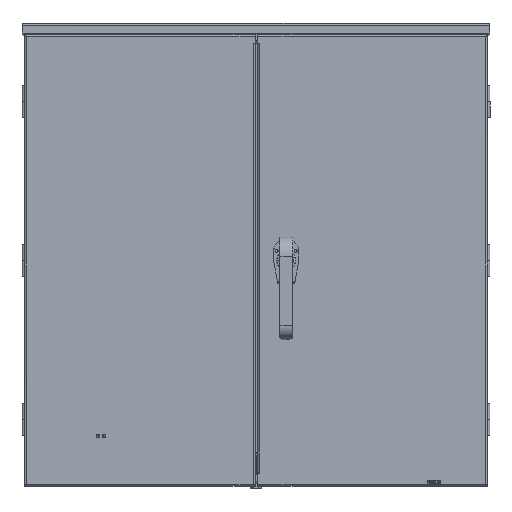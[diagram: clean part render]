
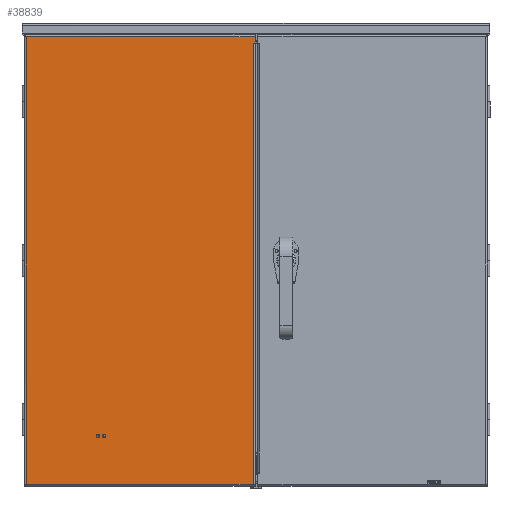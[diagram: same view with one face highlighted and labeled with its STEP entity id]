
A CAD part, top view. The second image highlights one B-rep face of the part: STEP entity #38839.
In plain terms, the highlighted planar face has unit normal (0, 0, 1).
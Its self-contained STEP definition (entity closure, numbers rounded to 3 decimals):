
#13 = VERTEX_POINT ( 'NONE', #20820 ) ;
#14 = EDGE_CURVE ( 'NONE', #15, #13, #20815, .T. ) ;
#15 = VERTEX_POINT ( 'NONE', #20808 ) ;
#16 = EDGE_CURVE ( 'NONE', #21, #53157, #20802, .T. ) ;
#20 = VERTEX_POINT ( 'NONE', #20928 ) ;
#21 = VERTEX_POINT ( 'NONE', #20927 ) ;
#25 = EDGE_CURVE ( 'NONE', #21, #20, #20903, .T. ) ;
#16979 = DIRECTION ( 'NONE',  ( 1., 0., 0. ) ) ;
#16981 = DIRECTION ( 'NONE',  ( 0., 0., 1. ) ) ;
#16982 = CARTESIAN_POINT ( 'NONE',  ( -9.037, -17.675, 1. ) ) ;
#16984 = AXIS2_PLACEMENT_3D ( 'NONE', #16982, #16981, #16979 ) ;
#16985 = PLANE ( 'NONE',  #16984 ) ;
#16989 = FACE_OUTER_BOUND ( 'NONE', #38790, .T. ) ;
#16991 = FACE_BOUND ( 'NONE', #38812, .T. ) ;
#16993 = FACE_BOUND ( 'NONE', #38836, .T. ) ;
#16995 = DIRECTION ( 'NONE',  ( 1., 0., 0. ) ) ;
#16997 = DIRECTION ( 'NONE',  ( 0., 0., 1. ) ) ;
#16998 = CARTESIAN_POINT ( 'NONE',  ( -3.279, -13.754, 1. ) ) ;
#17000 = AXIS2_PLACEMENT_3D ( 'NONE', #16998, #16997, #16995 ) ;
#17001 = CIRCLE ( 'NONE', #17000, 0.134 ) ;
#17006 = DIRECTION ( 'NONE',  ( 1., 0., 0. ) ) ;
#17008 = DIRECTION ( 'NONE',  ( 0., 0., 1. ) ) ;
#17010 = CARTESIAN_POINT ( 'NONE',  ( -2.779, -13.754, 1. ) ) ;
#17011 = AXIS2_PLACEMENT_3D ( 'NONE', #17010, #17008, #17006 ) ;
#17013 = CIRCLE ( 'NONE', #17011, 0.134 ) ;
#18098 = CARTESIAN_POINT ( 'NONE',  ( -3.413, -13.754, 1. ) ) ;
#18102 = CARTESIAN_POINT ( 'NONE',  ( -3.145, -13.754, 1. ) ) ;
#18181 = DIRECTION ( 'NONE',  ( 1., 0., 0. ) ) ;
#18183 = DIRECTION ( 'NONE',  ( 0., 0., 1. ) ) ;
#18185 = CARTESIAN_POINT ( 'NONE',  ( -3.279, -13.754, 1. ) ) ;
#18187 = AXIS2_PLACEMENT_3D ( 'NONE', #18185, #18183, #18181 ) ;
#18188 = CIRCLE ( 'NONE', #18187, 0.134 ) ;
#18408 = CARTESIAN_POINT ( 'NONE',  ( 8.9, -17.525, 1. ) ) ;
#18882 = DIRECTION ( 'NONE',  ( 0., -1., 0. ) ) ;
#18883 = VECTOR ( 'NONE', #18882, 39.37 ) ;
#18885 = CARTESIAN_POINT ( 'NONE',  ( 9.037, 17.675, 1. ) ) ;
#18886 = LINE ( 'NONE', #18885, #18883 ) ;
#18891 = CARTESIAN_POINT ( 'NONE',  ( 9.037, 17.537, 1. ) ) ;
#19001 = CARTESIAN_POINT ( 'NONE',  ( -2.645, -13.754, 1. ) ) ;
#19033 = CARTESIAN_POINT ( 'NONE',  ( -2.913, -13.754, 1. ) ) ;
#19046 = DIRECTION ( 'NONE',  ( 1., 0., 0. ) ) ;
#19048 = DIRECTION ( 'NONE',  ( 0., 0., 1. ) ) ;
#19050 = AXIS2_PLACEMENT_3D ( 'NONE', #19066, #19048, #19046 ) ;
#19051 = CIRCLE ( 'NONE', #19050, 0.134 ) ;
#19066 = CARTESIAN_POINT ( 'NONE',  ( -2.779, -13.754, 1. ) ) ;
#19194 = DIRECTION ( 'NONE',  ( -1., 0., 0. ) ) ;
#19196 = VECTOR ( 'NONE', #19194, 39.37 ) ;
#19198 = CARTESIAN_POINT ( 'NONE',  ( -8.906, 17.537, 1. ) ) ;
#19199 = LINE ( 'NONE', #19198, #19196 ) ;
#19207 = CARTESIAN_POINT ( 'NONE',  ( -8.9, 17.537, 1. ) ) ;
#19287 = DIRECTION ( 'NONE',  ( 0., 1., 0. ) ) ;
#19289 = VECTOR ( 'NONE', #19287, 39.37 ) ;
#19291 = CARTESIAN_POINT ( 'NONE',  ( 8.9, -17.525, 1. ) ) ;
#19292 = LINE ( 'NONE', #19291, #19289 ) ;
#19415 = DIRECTION ( 'NONE',  ( 1., 0., 0. ) ) ;
#19417 = VECTOR ( 'NONE', #19415, 39.37 ) ;
#19418 = CARTESIAN_POINT ( 'NONE',  ( 9.037, -17.537, 1. ) ) ;
#19419 = LINE ( 'NONE', #19418, #19417 ) ;
#19425 = CARTESIAN_POINT ( 'NONE',  ( -8.9, -17.537, 1. ) ) ;
#19427 = DIRECTION ( 'NONE',  ( 0., -1., 0. ) ) ;
#19429 = VECTOR ( 'NONE', #19427, 39.37 ) ;
#19431 = CARTESIAN_POINT ( 'NONE',  ( -8.9, -17.543, 1. ) ) ;
#19434 = LINE ( 'NONE', #19431, #19429 ) ;
#20799 = VECTOR ( 'NONE', #20935, 39.37 ) ;
#20801 = CARTESIAN_POINT ( 'NONE',  ( -9.037, -17.525, 1. ) ) ;
#20802 = LINE ( 'NONE', #20801, #20799 ) ;
#20808 = CARTESIAN_POINT ( 'NONE',  ( 8.9, 17.04, 1. ) ) ;
#20810 = DIRECTION ( 'NONE',  ( 1., 0., 0. ) ) ;
#20812 = VECTOR ( 'NONE', #20810, 39.37 ) ;
#20814 = CARTESIAN_POINT ( 'NONE',  ( -9.037, 17.04, 1. ) ) ;
#20815 = LINE ( 'NONE', #20814, #20812 ) ;
#20820 = CARTESIAN_POINT ( 'NONE',  ( 9.037, 17.04, 1. ) ) ;
#20897 = DIRECTION ( 'NONE',  ( 0., -1., 0. ) ) ;
#20899 = VECTOR ( 'NONE', #20897, 39.37 ) ;
#20901 = CARTESIAN_POINT ( 'NONE',  ( 9.037, 17.675, 1. ) ) ;
#20903 = LINE ( 'NONE', #20901, #20899 ) ;
#20927 = CARTESIAN_POINT ( 'NONE',  ( 9.037, -17.525, 1. ) ) ;
#20928 = CARTESIAN_POINT ( 'NONE',  ( 9.037, -17.537, 1. ) ) ;
#20935 = DIRECTION ( 'NONE',  ( -1., 0., 0. ) ) ;
#38781 = ORIENTED_EDGE ( 'NONE', *, *, #53366, .T. ) ;
#38785 = ORIENTED_EDGE ( 'NONE', *, *, #25, .F. ) ;
#38789 = ORIENTED_EDGE ( 'NONE', *, *, #16, .T. ) ;
#38790 = EDGE_LOOP ( 'NONE', ( #38785, #38789, #38781, #53350, #53349, #53345, #53344, #53404 ) ) ;
#38799 = ORIENTED_EDGE ( 'NONE', *, *, #38801, .F. ) ;
#38801 = EDGE_CURVE ( 'NONE', #53320, #53312, #17013, .T. ) ;
#38802 = ORIENTED_EDGE ( 'NONE', *, *, #53305, .F. ) ;
#38812 = EDGE_LOOP ( 'NONE', ( #38802, #38799 ) ) ;
#38813 = EDGE_CURVE ( 'NONE', #53089, #53093, #17001, .T. ) ;
#38819 = ORIENTED_EDGE ( 'NONE', *, *, #38813, .F. ) ;
#38827 = ORIENTED_EDGE ( 'NONE', *, *, #53106, .F. ) ;
#38836 = EDGE_LOOP ( 'NONE', ( #38827, #38819 ) ) ;
#38839 = ADVANCED_FACE ( 'NONE', ( #16993, #16991, #16989 ), #16985, .T. ) ;
#53089 = VERTEX_POINT ( 'NONE', #18102 ) ;
#53093 = VERTEX_POINT ( 'NONE', #18098 ) ;
#53106 = EDGE_CURVE ( 'NONE', #53093, #53089, #18188, .T. ) ;
#53157 = VERTEX_POINT ( 'NONE', #18408 ) ;
#53274 = VERTEX_POINT ( 'NONE', #18891 ) ;
#53275 = EDGE_CURVE ( 'NONE', #53274, #13, #18886, .T. ) ;
#53305 = EDGE_CURVE ( 'NONE', #53312, #53320, #19051, .T. ) ;
#53312 = VERTEX_POINT ( 'NONE', #19033 ) ;
#53320 = VERTEX_POINT ( 'NONE', #19001 ) ;
#53343 = VERTEX_POINT ( 'NONE', #19207 ) ;
#53344 = ORIENTED_EDGE ( 'NONE', *, *, #53401, .T. ) ;
#53345 = ORIENTED_EDGE ( 'NONE', *, *, #53347, .T. ) ;
#53347 = EDGE_CURVE ( 'NONE', #53274, #53343, #19199, .T. ) ;
#53349 = ORIENTED_EDGE ( 'NONE', *, *, #53275, .F. ) ;
#53350 = ORIENTED_EDGE ( 'NONE', *, *, #14, .T. ) ;
#53366 = EDGE_CURVE ( 'NONE', #53157, #15, #19292, .T. ) ;
#53401 = EDGE_CURVE ( 'NONE', #53343, #53402, #19434, .T. ) ;
#53402 = VERTEX_POINT ( 'NONE', #19425 ) ;
#53403 = EDGE_CURVE ( 'NONE', #53402, #20, #19419, .T. ) ;
#53404 = ORIENTED_EDGE ( 'NONE', *, *, #53403, .T. ) ;
